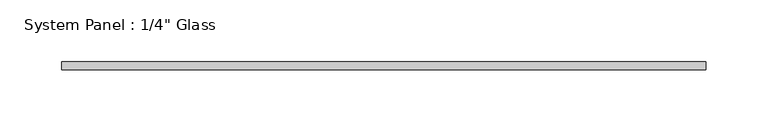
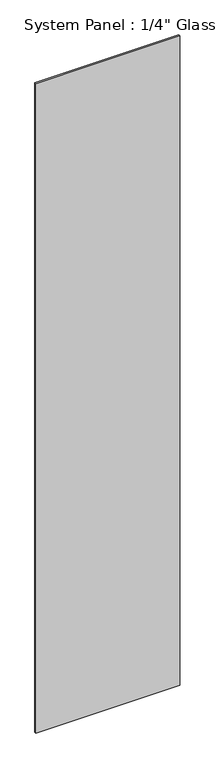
"""IFC4 building model written with IfcOpenShell, lengths in millimetres: plate geometry."""

from ifc_helpers import new_model, si_unit, origin, origin_with_axes, place, context, project, spatial, polyline, outline, extrude, source, transform, mapped, element, save


def plate_46a4c48d(model_context):
    return source(origin(), model_context, "Body", "SweptSolid", [
        extrude(outline(polyline([(260.7675974, -3.175), (-260.7675974, -3.175), (-260.7675974, 3.175), (260.7675974, 3.175), (260.7675974, -3.175)])), origin_with_axes(), (0.0, 0.0, 1.0), 2489.2),
    ])


if __name__ == "__main__":
    model = new_model("IFC4")
    model_context = context("Model", 3, world=origin())
    ifc_project = project(units=[si_unit("LENGTHUNIT", "METRE", prefix="MILLI")], contexts=[model_context])
    site = spatial("IfcSite", under=ifc_project)
    building = spatial("IfcBuilding", under=site)
    placement = place(None, origin())
    plate_shape = plate_46a4c48d(model_context)
    element("IfcPlate", 1, ObjectType="System Panel : 1/4\" Glass", at=placement, inside=building, context=model_context, shape_type="MappedRepresentation", body=[
        mapped(plate_shape, transform((0.0, 0.0, 0.0), x_axis=(1.0, 0.0, 0.0), y_axis=(0.0, 1.0, 0.0), z_axis=(0.0, 0.0, 1.0))),
    ])
    save(model, "model.ifc")
